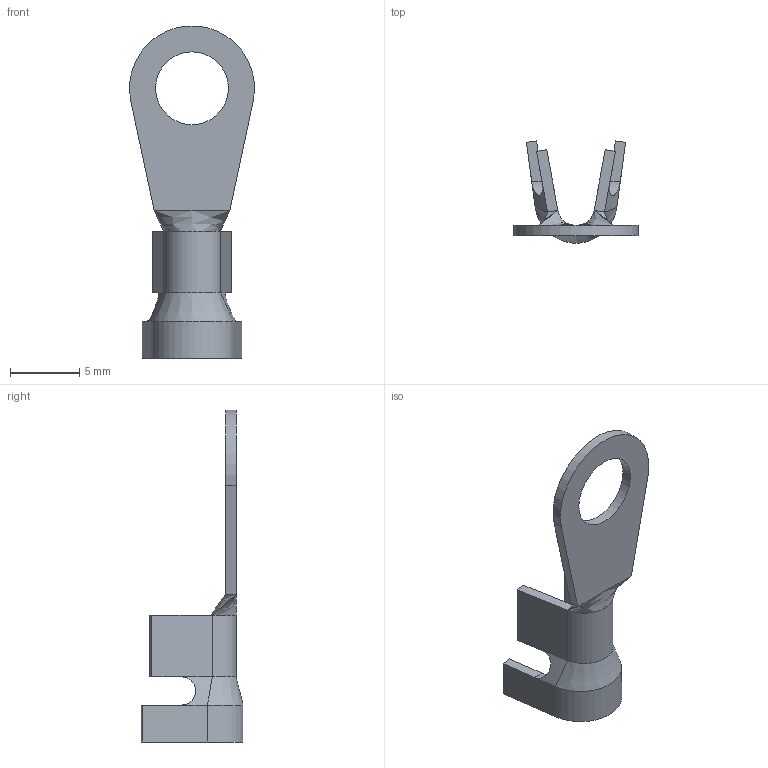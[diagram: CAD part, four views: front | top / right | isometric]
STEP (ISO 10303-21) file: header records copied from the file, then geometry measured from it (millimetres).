
FILE_DESCRIPTION((''),'2;1');
FILE_NAME('C-160134-2','2008-07-28T',('workeradm'),('Tyco Electronics Corporation'),'PRO/ENGINEER BY PARAMETRIC TECHNOLOGY CORPORATION, 2005450','PRO/ENGINEER BY PARAMETRIC TECHNOLOGY CORPORATION, 2005450','');
FILE_SCHEMA(('CONFIG_CONTROL_DESIGN', 'GEOMETRIC_VALIDATION_PROPERTIES_MIM'));
Length unit declared in the file: millimetre
Products named in the file (1): C-160134-2
Bounding box: 9.01 x 7.36 x 23.95 mm (x, y, z)
Volume: 153.5 mm3; surface area: 495.1 mm2
Topology: 1 solids, 1 shells, 42 faces, 96 edges, 56 vertices
Faces by surface type: plane 23, bspline 10, cylinder 9
Entity records: 1668 total; most frequent: CARTESIAN_POINT 627, ORIENTED_EDGE 192, DIRECTION 170, EDGE_CURVE 96, VECTOR 76, LINE 76, COLOUR_RGB 64, VERTEX_POINT 56
